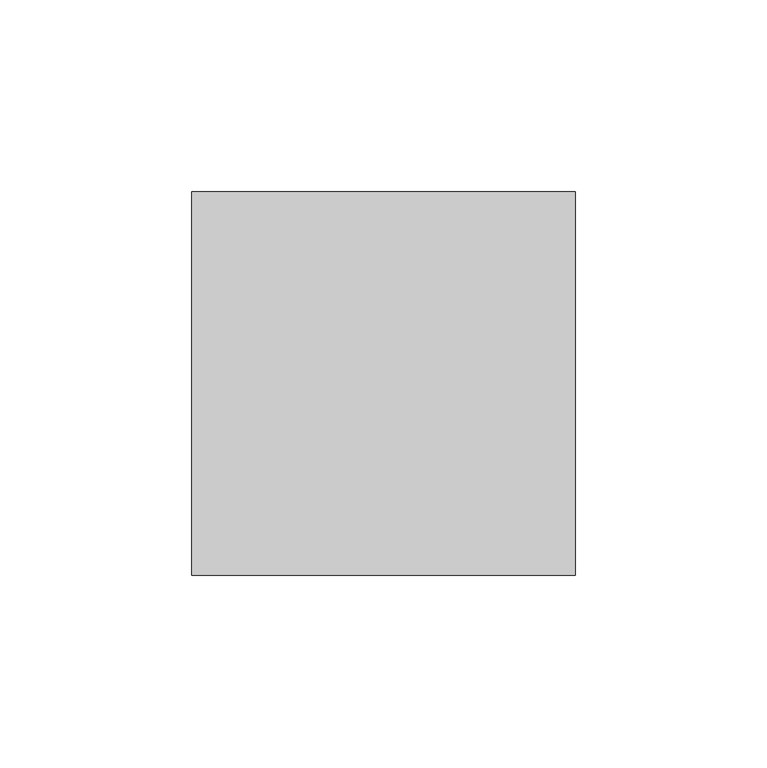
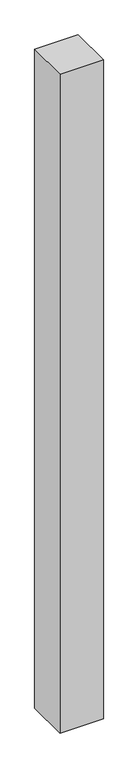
"""IFC4 building model written with IfcOpenShell, lengths in millimetres: member geometry, Montante angular cuadrilátero : Montante cuadrilátero 1."""

from ifc_helpers import new_model, si_unit, frame, origin, place, context, project, spatial, polyline, outline, extrude, source, transform, mapped, element, save


def member_53e74821(model_context):
    return source(origin(), model_context, "Body", "SweptSolid", [
        extrude(outline(polyline([(50.0, 50.0), (50.0, -50.0), (-50.0, -50.0), (-50.0, 50.0), (50.0, 50.0)])), frame((0.0, 0.0, -1600.0), z_axis=(0.0, 0.0, 1.0), x_axis=(1.0, 0.0, 0.0)), (0.0, 0.0, 1.0), 1600.0),
    ])


if __name__ == "__main__":
    model = new_model("IFC4")
    model_context = context("Model", 3, world=origin())
    ifc_project = project(units=[si_unit("LENGTHUNIT", "METRE", prefix="MILLI")], contexts=[model_context])
    site = spatial("IfcSite", under=ifc_project)
    building = spatial("IfcBuilding", under=site)
    placement = place(None, origin())
    member_shape = member_53e74821(model_context)
    element("IfcMember", 1, ObjectType="Montante angular cuadrilátero : Montante cuadrilátero 1", at=placement, inside=building, context=model_context, shape_type="MappedRepresentation", body=[
        mapped(member_shape, transform((0.0, 0.0, 0.0), x_axis=(1.0, 0.0, 0.0), y_axis=(0.0, 1.0, 0.0), z_axis=(0.0, 0.0, 1.0))),
    ])
    save(model, "model.ifc")
